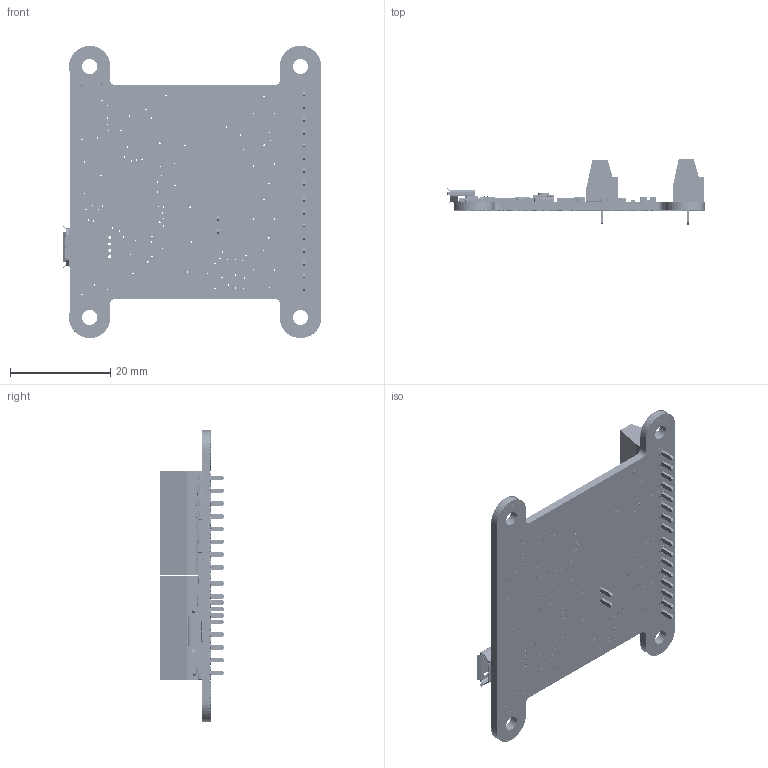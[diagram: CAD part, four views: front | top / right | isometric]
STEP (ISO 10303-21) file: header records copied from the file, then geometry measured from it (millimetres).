
FILE_DESCRIPTION (( 'STEP AP214' ), '1' );
FILE_NAME ('YWMBRDG1.STEP', '2018-01-24T09:48:36', ( 'martinm' ), ( '' ), 'SwSTEP 2.0', 'SolidWorks 2008', '' );
FILE_SCHEMA (( 'AUTOMOTIVE_DESIGN' ));
Length unit declared in the file: millimetre
Products named in the file (39): PCB; AD1; C2; C11; C16; C17; C18; C22; C28; C30; C31; C39; CPU1; D4; FLASH1; P2; P4; R2; R3; R4; R8; R9; R16; R17; R18; R20; R25; R31; REG2; T1; T2; T3; T4; USB1; YBUTTON; YLED; reg3; sens1; YWMBRDG1
Assembly tree (91 placements, depth 2):
  YWMBRDG1
    C16
    C22  x8
    C39  x8
    R17  x2
    R31  x8
    YLED
    C18  x2
    P4  x2
    T4
    C31  x10
    R3
    YBUTTON
    C30  x2
    R20  x7
    R4
    R8  x2
    T2
    reg3
    D4  x4
    PCB
    CPU1
    T3
    FLASH1
    R16
    R25  x5
    C28  x4
    R9
    C11
    C17  x2
    AD1
    R2
    REG2  x2
    sens1
    C2
    P2
    R18
    T1
    USB1
Bounding box: 51.48 x 12.9 x 58.25 mm (x, y, z)
Volume: 5975.2 mm3; surface area: 9156.4 mm2
Topology: 125 solids, 125 shells, 12092 faces, 30948 edges, 19924 vertices
Faces by surface type: plane 7504, cylinder 3052, bspline 1201, sphere 328, torus 7
Entity records: 385484 total; most frequent: CARTESIAN_POINT 93536, ORIENTED_EDGE 43594, DIRECTION 40061, EDGE_CURVE 21797, LINE 15771, VECTOR 15771, VERTEX_POINT 14377, AXIS2_PLACEMENT_3D 12145
